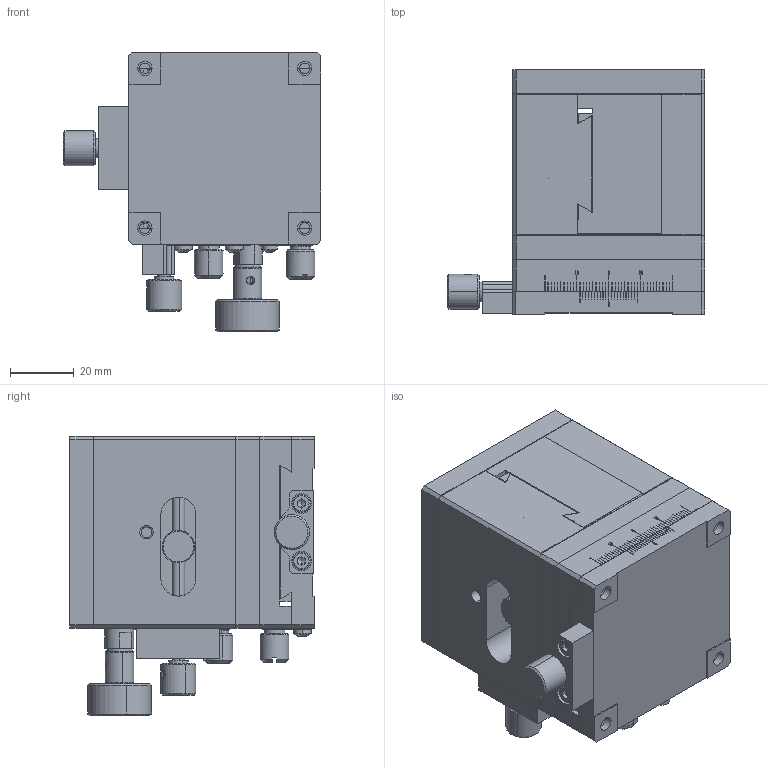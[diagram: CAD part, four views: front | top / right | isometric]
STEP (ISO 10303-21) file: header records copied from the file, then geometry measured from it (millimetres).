
FILE_DESCRIPTION (( 'STEP AP203' ), '1' );
FILE_NAME ('BWED60.STEP', '2024-02-26T12:39:05', ( 'China' ), ( 'Microsoft' ), 'SwSTEP 2.0', 'SolidWorks 2024', '' );
FILE_SCHEMA (( 'CONFIG_CONTROL_DESIGN' ));
Products named in the file (1): BWED60
Bounding box: 80.5 x 76.5 x 87.4 mm (x, y, z)
Volume: 265345.9 mm3; surface area: 97504.4 mm2
Topology: 42 solids, 42 shells, 1730 faces, 4511 edges, 2877 vertices
Faces by surface type: plane 964, cylinder 474, cone 187, bspline 79, torus 18, sphere 8
Entity records: 145816 total; most frequent: CARTESIAN_POINT 103996, ORIENTED_EDGE 8866, DIRECTION 8307, EDGE_CURVE 4433, VERTEX_POINT 2877, AXIS2_PLACEMENT_3D 2817, VECTOR 2673, LINE 2673
